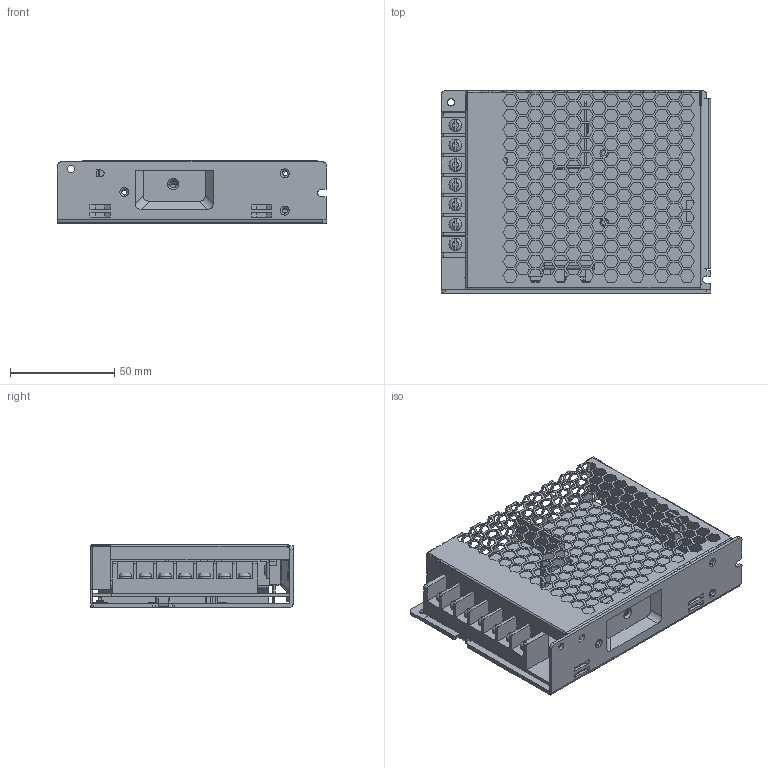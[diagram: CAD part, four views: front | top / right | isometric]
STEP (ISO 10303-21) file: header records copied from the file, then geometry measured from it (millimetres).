
FILE_DESCRIPTION((''),'2;1');
FILE_NAME('LRS-100_ASM','2021-11-02T17:22:19',('shalinice'),(''),'CREO PARAMETRIC BY PTC INC, 2016390','CREO PARAMETRIC BY PTC INC, 2016390','');
FILE_SCHEMA(('AUTOMOTIVE_DESIGN { 1 0 10303 214 1 1 1 1 }'));
Products named in the file (16): MOS15_5X10_1_1_1_1_1_1_1_3_2_PR; MHS033_1_PRT; P2_PRT; PIN_1_1_PRT; HS_ASM_ASM; PCB_PRT; G5_ASM_ASM; EE_PRT; 444_2_PRT; 444_1_PRT; 444_PRT; 55_PRT; TN_1_1_1_1_PRT_1; LRS-100_1_ASM_ASM; LRS-100_STP_ASM; LRS-100_ASM
Assembly tree (17 placements, depth 5):
  LRS-100_ASM
    LRS-100_STP_ASM
      LRS-100_1_ASM_ASM
        MOS15_5X10_1_1_1_1_1_1_1_3_2_PR  x3
        MHS033_1_PRT
        HS_ASM_ASM
          P2_PRT
          PIN_1_1_PRT
        G5_ASM_ASM
          PCB_PRT
        EE_PRT
        444_2_PRT
        444_1_PRT
        444_PRT
        55_PRT
        TN_1_1_1_1_PRT_1
Bounding box: 129 x 97 x 30 mm (x, y, z)
Volume: 68653.6 mm3; surface area: 115220.1 mm2
Topology: 13 solids, 13 shells, 2303 faces, 6654 edges, 4368 vertices
Faces by surface type: plane 1983, cylinder 234, bspline 48, torus 32, cone 6
Entity records: 95754 total; most frequent: CARTESIAN_POINT 16868, ORIENTED_EDGE 13044, DIRECTION 11372, EDGE_CURVE 6522, VECTOR 5904, LINE 5904, VERTEX_POINT 4280, PRESENTATION_STYLE_ASSIGNMENT 2904
